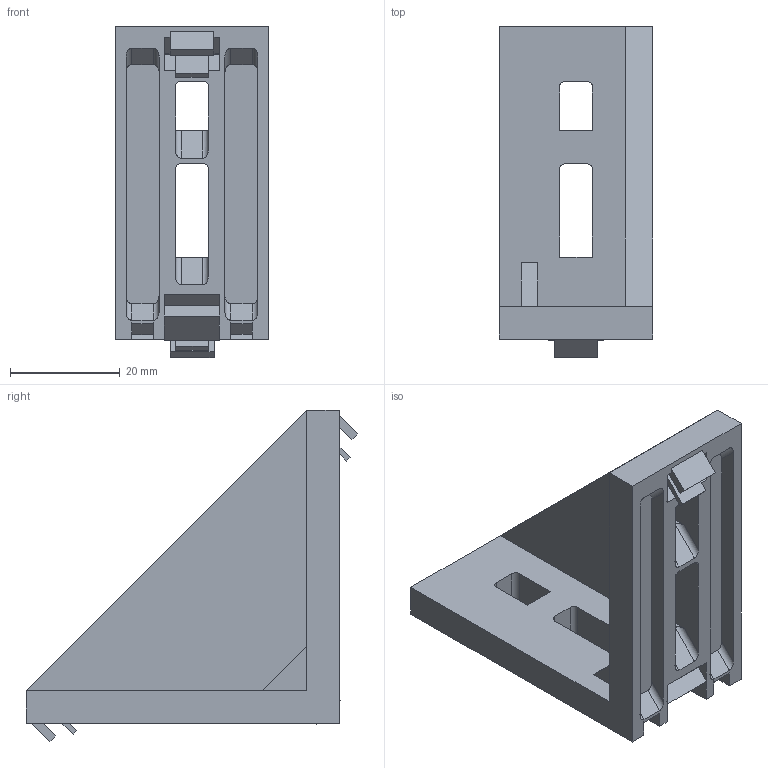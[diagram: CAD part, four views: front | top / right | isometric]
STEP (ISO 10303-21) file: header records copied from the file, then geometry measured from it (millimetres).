
FILE_DESCRIPTION (( 'STEP AP203' ), '1' );
FILE_NAME ('1055.STEP', '2016-03-27T14:34:58', ( '' ), ( '' ), 'SwSTEP 2.0', 'SolidWorks 2014', '' );
FILE_SCHEMA (( 'CONFIG_CONTROL_DESIGN' ));
Length unit declared in the file: millimetre
Products named in the file (1): 1055
Bounding box: 28 x 60.34 x 60.33 mm (x, y, z)
Volume: 19015.1 mm3; surface area: 12110.4 mm2
Topology: 1 solids, 1 shells, 141 faces, 385 edges, 252 vertices
Faces by surface type: plane 109, cylinder 32
Entity records: 4456 total; most frequent: CARTESIAN_POINT 923, ORIENTED_EDGE 770, DIRECTION 637, EDGE_CURVE 385, VECTOR 321, LINE 321, VERTEX_POINT 252, AXIS2_PLACEMENT_3D 158
